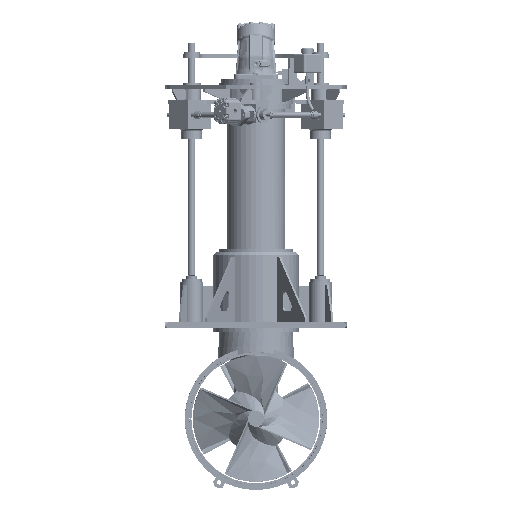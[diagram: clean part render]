
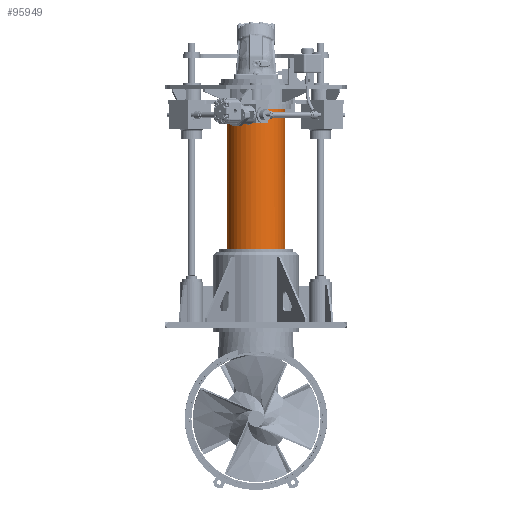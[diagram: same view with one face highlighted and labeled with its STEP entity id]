
A CAD part, left-side view. The second image highlights one B-rep face of the part: STEP entity #95949.
In plain terms, the highlighted cylindrical face has radius 160 mm (diameter 320 mm), a full revolution.
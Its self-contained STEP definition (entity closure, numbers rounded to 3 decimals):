
#5292=CYLINDRICAL_SURFACE('',#102377,160.);
#9048=LINE('',#168484,#15572);
#15572=VECTOR('',#116849,160.);
#22055=FACE_OUTER_BOUND('',#27673,.T.);
#27673=EDGE_LOOP('',(#68990,#68991,#68992,#68993,#68994,#68995,#68996,#68997,
#68998));
#33027=CIRCLE('',#102378,160.);
#33028=CIRCLE('',#102379,160.);
#33029=CIRCLE('',#102380,160.);
#33030=CIRCLE('',#102381,160.);
#33031=CIRCLE('',#102382,160.);
#33032=CIRCLE('',#102383,160.);
#33033=CIRCLE('',#102384,160.);
#39423=VERTEX_POINT('',#168473);
#39424=VERTEX_POINT('',#168474);
#39425=VERTEX_POINT('',#168476);
#39426=VERTEX_POINT('',#168478);
#39427=VERTEX_POINT('',#168480);
#39428=VERTEX_POINT('',#168483);
#39429=VERTEX_POINT('',#168485);
#50193=EDGE_CURVE('',#39423,#39424,#33027,.T.);
#50194=EDGE_CURVE('',#39425,#39423,#33028,.T.);
#50195=EDGE_CURVE('',#39426,#39425,#33029,.T.);
#50196=EDGE_CURVE('',#39427,#39426,#33030,.T.);
#50197=EDGE_CURVE('',#39424,#39427,#33031,.T.);
#50198=EDGE_CURVE('',#39424,#39428,#9048,.T.);
#50199=EDGE_CURVE('',#39429,#39428,#33032,.T.);
#50200=EDGE_CURVE('',#39428,#39429,#33033,.T.);
#68990=ORIENTED_EDGE('',*,*,#50193,.F.);
#68991=ORIENTED_EDGE('',*,*,#50194,.F.);
#68992=ORIENTED_EDGE('',*,*,#50195,.F.);
#68993=ORIENTED_EDGE('',*,*,#50196,.F.);
#68994=ORIENTED_EDGE('',*,*,#50197,.F.);
#68995=ORIENTED_EDGE('',*,*,#50198,.T.);
#68996=ORIENTED_EDGE('',*,*,#50199,.F.);
#68997=ORIENTED_EDGE('',*,*,#50200,.F.);
#68998=ORIENTED_EDGE('',*,*,#50198,.F.);
#95949=ADVANCED_FACE('',(#22055),#5292,.T.);
#102377=AXIS2_PLACEMENT_3D('',#168472,#116837,#116838);
#102378=AXIS2_PLACEMENT_3D('',#168475,#116839,#116840);
#102379=AXIS2_PLACEMENT_3D('',#168477,#116841,#116842);
#102380=AXIS2_PLACEMENT_3D('',#168479,#116843,#116844);
#102381=AXIS2_PLACEMENT_3D('',#168481,#116845,#116846);
#102382=AXIS2_PLACEMENT_3D('',#168482,#116847,#116848);
#102383=AXIS2_PLACEMENT_3D('',#168486,#116850,#116851);
#102384=AXIS2_PLACEMENT_3D('',#168487,#116852,#116853);
#116837=DIRECTION('center_axis',(0.,0.,
1.));
#116838=DIRECTION('ref_axis',(0.,-1.,0.));
#116839=DIRECTION('center_axis',(0.,0.,
1.));
#116840=DIRECTION('ref_axis',(0.,-1.,0.));
#116841=DIRECTION('center_axis',(0.,0.,
1.));
#116842=DIRECTION('ref_axis',(0.,-1.,0.));
#116843=DIRECTION('center_axis',(0.,0.,
1.));
#116844=DIRECTION('ref_axis',(0.,-1.,0.));
#116845=DIRECTION('center_axis',(0.,0.,
1.));
#116846=DIRECTION('ref_axis',(0.,-1.,0.));
#116847=DIRECTION('center_axis',(0.,0.,
1.));
#116848=DIRECTION('ref_axis',(0.,-1.,0.));
#116849=DIRECTION('',(0.,0.,-1.));
#116850=DIRECTION('center_axis',(0.,0.,
-1.));
#116851=DIRECTION('ref_axis',(0.,1.,0.));
#116852=DIRECTION('center_axis',(0.,0.,
-1.));
#116853=DIRECTION('ref_axis',(0.,1.,0.));
#168472=CARTESIAN_POINT('Origin',(0.,0.,
-72.));
#168473=CARTESIAN_POINT('',(29.742,157.211,1200.));
#168474=CARTESIAN_POINT('',(0.,160.,1200.));
#168475=CARTESIAN_POINT('Origin',(0.,0.,
1200.));
#168476=CARTESIAN_POINT('',(32.684,156.626,1200.));
#168477=CARTESIAN_POINT('Origin',(0.,0.,
1200.));
#168478=CARTESIAN_POINT('',(-29.742,-157.211,1200.));
#168479=CARTESIAN_POINT('Origin',(0.,0.,
1200.));
#168480=CARTESIAN_POINT('',(-32.684,-156.626,1200.));
#168481=CARTESIAN_POINT('Origin',(0.,0.,
1200.));
#168482=CARTESIAN_POINT('Origin',(0.,0.,
1200.));
#168483=CARTESIAN_POINT('',(0.,160.,428.));
#168484=CARTESIAN_POINT('',(0.,160.,-72.));
#168485=CARTESIAN_POINT('',(0.,-160.,428.));
#168486=CARTESIAN_POINT('Origin',(0.,0.,
428.));
#168487=CARTESIAN_POINT('Origin',(0.,0.,
428.));
